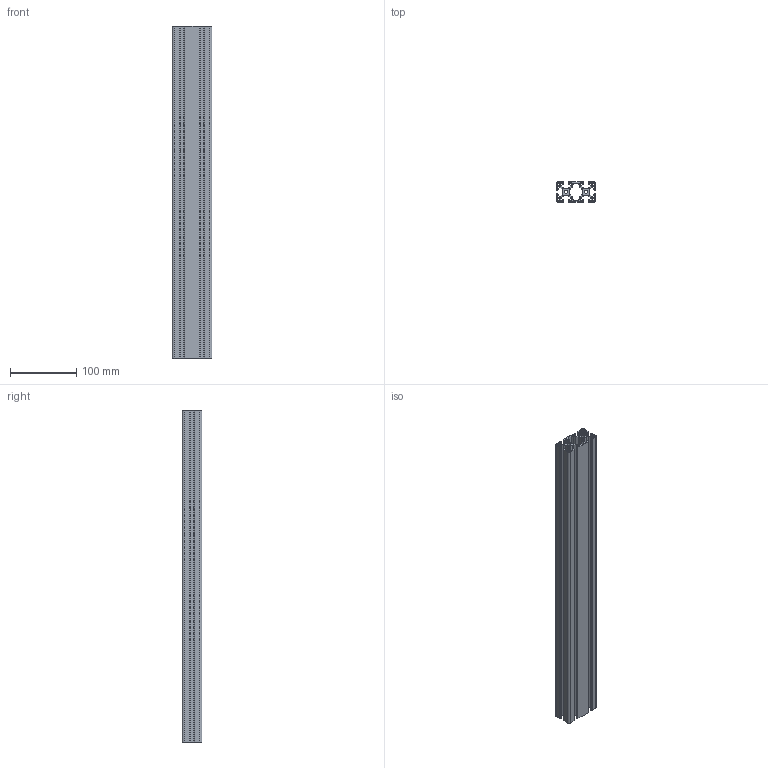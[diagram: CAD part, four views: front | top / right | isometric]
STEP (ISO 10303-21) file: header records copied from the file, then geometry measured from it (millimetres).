
FILE_DESCRIPTION (( 'STEP AP203' ), '1' );
FILE_NAME ('M ATP I6 3060L.STEP', '2012-06-04T09:15:52', ( 'alle' ), ( 'Hewlett-Packard Company' ), 'SwSTEP 2.0', 'SolidWorks 2011', '' );
FILE_SCHEMA (( 'CONFIG_CONTROL_DESIGN' ));
Length unit declared in the file: millimetre
Products named in the file (1): M ATP I6 3060L
Bounding box: 60 x 30 x 500 mm (x, y, z)
Volume: 297961.2 mm3; surface area: 281294.3 mm2
Topology: 1 solids, 1 shells, 238 faces, 708 edges, 472 vertices
Faces by surface type: cylinder 120, plane 118
Entity records: 8157 total; most frequent: DIRECTION 1426, CARTESIAN_POINT 1419, ORIENTED_EDGE 1416, EDGE_CURVE 708, AXIS2_PLACEMENT_3D 479, VERTEX_POINT 472, LINE 468, VECTOR 468
